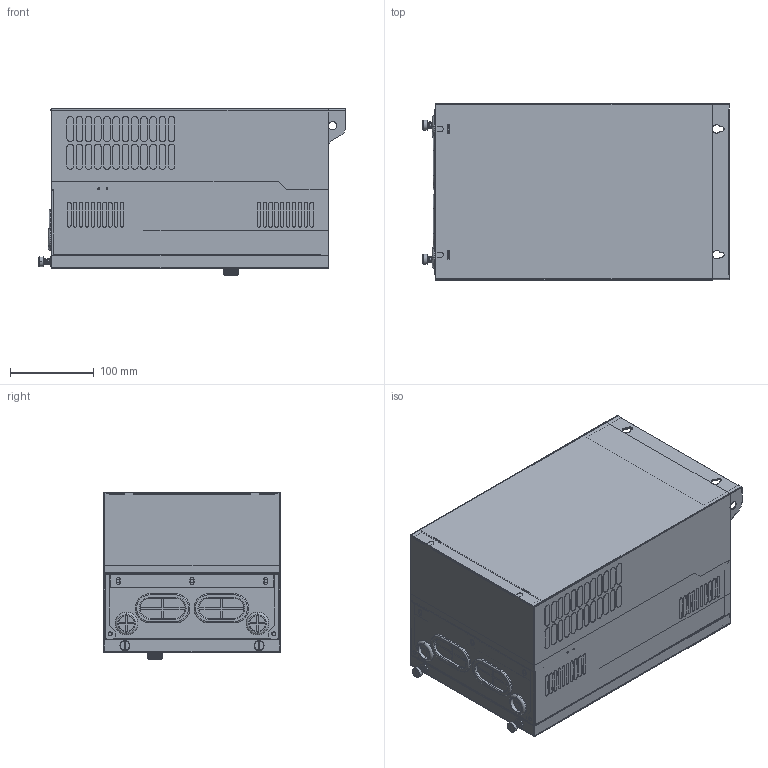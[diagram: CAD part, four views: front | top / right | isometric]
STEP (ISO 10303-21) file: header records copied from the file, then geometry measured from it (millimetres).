
FILE_DESCRIPTION((''),'2;1');
FILE_NAME('ASM0002_ASM','2022-07-15T',('Administrator'),(''),'PRO/ENGINEER BY PARAMETRIC TECHNOLOGY CORPORATION, 2009440','PRO/ENGINEER BY PARAMETRIC TECHNOLOGY CORPORATION, 2009440','');
FILE_SCHEMA(('AUTOMOTIVE_DESIGN_CC2 { 1 2 10303 214 -1 1 5 2 }'));
Products named in the file (58): PRT0054; PRT0055; PRT0056; PRT0057; PRT0058; 5G3JK3F001_323_ASM_ASM; 5G3JK3F001_ASM_91_ASM_ASM; PRT0059; PRT0060; PRT0061; PRT0062; PRT0063; PRT0064; PRT0065; 5G3JK3F004_113_ASM_ASM; PRT0066; PRT0067; PRT0068; PRT0069; PRT0070; PRT0071; PRT0072; 5G3JK3F005_421_ASM_ASM; 5G3JK3F005_ASM_114_ASM_ASM; 5G3JK2F001_ASM_218_ASM_ASM; PRT0073; PRT0074; PRT0075; 5G3JK3F009_ASM_27_ASM_ASM; PRT0076; PRT0077; PRT0078; PRT0079; PRT0080; PRT0081; 5G3JK3F010_144_ASM_ASM; 5G3JK1F001_ASM_239_ASM_ASM; PRT0082; PRT0083; PRT0084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
Assembly tree (61 placements, depth 8):
  ASM0002_ASM
    18-22KW_3D_ASM_ASM_ASM
      18-22KW_3D_ASM_461_ASM_ASM
        5G3JK1F001_ASM_239_ASM_ASM
          PRT0054
          5G3JK2F001_ASM_218_ASM_ASM
            5G3JK3F001_ASM_91_ASM_ASM
              5G3JK3F001_323_ASM_ASM
                PRT0055
                PRT0056
                PRT0057
                PRT0058
            5G3JK3F004_113_ASM_ASM
              PRT0059
              PRT0060
              PRT0061
              PRT0062
              PRT0063
              PRT0064
              PRT0065
            5G3JK3F005_ASM_114_ASM_ASM
              5G3JK3F005_421_ASM_ASM
                PRT0066
                PRT0067
                PRT0068
                PRT0069
                PRT0070
                PRT0071
                PRT0072
          5G3JK3F009_ASM_27_ASM_ASM
            PRT0073
            PRT0074  x2
            PRT0075
          5G3JK3F010_144_ASM_ASM
            PRT0076
            PRT0077
            PRT0078
            PRT0079
            PRT0080
            PRT0081
        PRT0082
        5G3JK-DZ_ASM_138_ASM_ASM
          FAN_0938HB_14_ASM_ASM  x2
            PRT0083
            PRT0084
            PRT0085
            PRT0086
            PRT0087
          PRT0088  x2
          ASM0003_ASM
            ASM0004_ASM
              PRT0089
              PRT0133
              PRT0134
              5G3AZ3S005
            PRT0135
          PRT0136  x2
        PRT0137
Bounding box: 365.4 x 210 x 198 mm (x, y, z)
Volume: 1134768.7 mm3; surface area: 2022014 mm2
Topology: 42 solids, 101 shells, 4186 faces, 28044 edges, 30514 vertices
Faces by surface type: plane 2545, cylinder 993, extrusion 315, bspline 168, cone 79, torus 60, sphere 24, revolution 2
Entity records: 303969 total; most frequent: CARTESIAN_POINT 77604, DIRECTION 29928, ORIENTED_EDGE 22030, PRESENTATION_STYLE_ASSIGNMENT 20957, STYLED_ITEM 20930, CURVE_STYLE 19575, VECTOR 17932, LINE 17719
